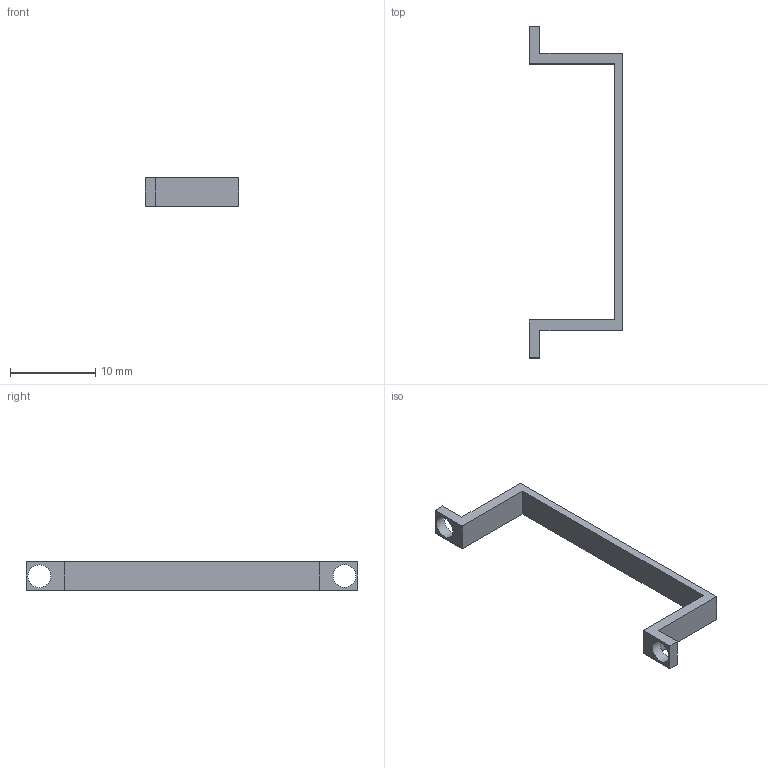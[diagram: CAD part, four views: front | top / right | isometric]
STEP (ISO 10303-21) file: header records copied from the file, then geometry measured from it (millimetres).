
FILE_DESCRIPTION(/* description */ ('STEP AP242 Edition 2','CAx-IF Rec.Pracs.---Representation and Presentation of Product Manufacturing Information (PMI)---4.0---2014-10-13','CAx-IF Rec.Pracs.---3D Tessellated Geometry---0.4---2014-09-14','2;1','CAx-IF Rec.Pracs.---User Defined Attributes---1.5---2016-08-15'),/* implementation_level */ '2;1');
FILE_NAME(/* name */ 'Main - Battery Clamp',/* time_stamp */ '2026-06-25T16:15:29Z',/* author */ (''),/* organization */ (''),/* preprocessor_version */ 'ST-DEVELOPER v20',/* originating_system */ 'ONSHAPE BY PTC INC, 1.216',/* authorisation */ ' ');
FILE_SCHEMA (('AP242_MANAGED_MODEL_BASED_3D_ENGINEERING_MIM_LF { 1 0 10303 442 3 1 4 }'));
Length unit declared in the file: metre
Products named in the file (1): Battery Clamp
Bounding box: 10.99 x 39.04 x 3.3 mm (x, y, z)
Volume: 200.8 mm3; surface area: 525.1 mm2
Topology: 1 solids, 1 shells, 16 faces, 43 edges, 29 vertices
Faces by surface type: plane 14, cylinder 2
Full cylindrical faces by diameter (mm): 2.686 x2
Entity records: 510 total; most frequent: CARTESIAN_POINT 85, ORIENTED_EDGE 80, DIRECTION 78, EDGE_CURVE 40, LINE 36, VECTOR 36, VERTEX_POINT 28, EDGE_LOOP 22
